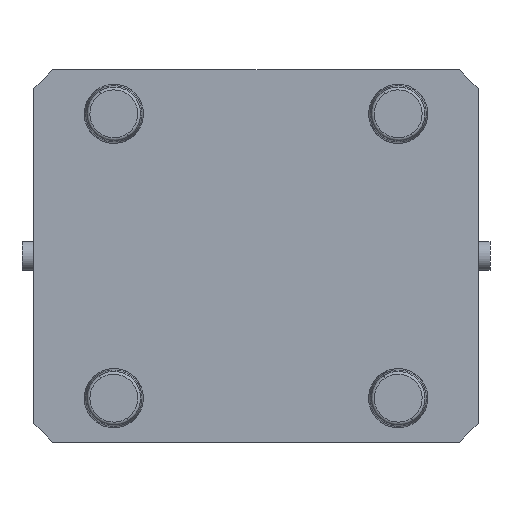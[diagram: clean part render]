
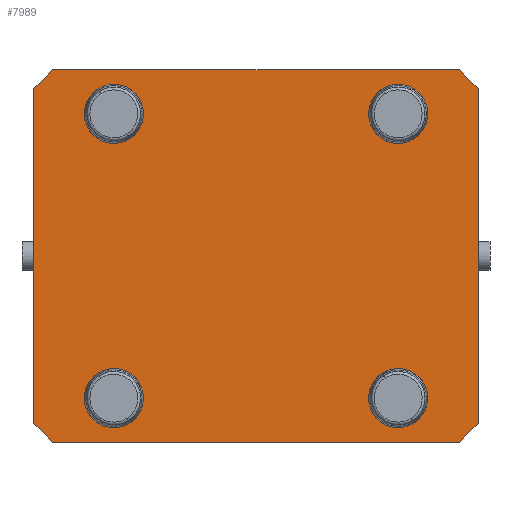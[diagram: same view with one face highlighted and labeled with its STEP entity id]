
A CAD part, front view. The second image highlights one B-rep face of the part: STEP entity #7989.
In plain terms, the highlighted planar face has unit normal (0, -1, 0).
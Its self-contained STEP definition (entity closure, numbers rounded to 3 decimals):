
#92 = CARTESIAN_POINT ( 'NONE',  ( 68.65, 0., -62.865 ) ) ;
#105 = CARTESIAN_POINT ( 'NONE',  ( -48., 0., -56.01 ) ) ;
#164 = CIRCLE ( 'NONE', #8011, 8.01 ) ;
#213 = ORIENTED_EDGE ( 'NONE', *, *, #9001, .T. ) ;
#287 = DIRECTION ( 'NONE',  ( 0.707, 0., -0.707 ) ) ;
#586 = DIRECTION ( 'NONE',  ( 0.707, 0., 0.707 ) ) ;
#594 = FACE_BOUND ( 'NONE', #6191, .T. ) ;
#634 = CARTESIAN_POINT ( 'NONE',  ( 48., 0., -48. ) ) ;
#657 = EDGE_LOOP ( 'NONE', ( #2764, #4344 ) ) ;
#660 = AXIS2_PLACEMENT_3D ( 'NONE', #8205, #2317, #7489 ) ;
#684 = EDGE_CURVE ( 'NONE', #7181, #5757, #1202, .T. ) ;
#794 = CARTESIAN_POINT ( 'NONE',  ( -48., 0., -48. ) ) ;
#817 = FACE_BOUND ( 'NONE', #8813, .T. ) ;
#830 = EDGE_LOOP ( 'NONE', ( #7213, #3778 ) ) ;
#959 = VERTEX_POINT ( 'NONE', #6348 ) ;
#1030 = ORIENTED_EDGE ( 'NONE', *, *, #5386, .T. ) ;
#1202 = LINE ( 'NONE', #92, #4952 ) ;
#1205 = VERTEX_POINT ( 'NONE', #6537 ) ;
#1284 = VERTEX_POINT ( 'NONE', #8278 ) ;
#1389 = DIRECTION ( 'NONE',  ( 0., 0., -1. ) ) ;
#1423 = VERTEX_POINT ( 'NONE', #8372 ) ;
#1448 = CARTESIAN_POINT ( 'NONE',  ( 48., 0., 56.01 ) ) ;
#1550 = VECTOR ( 'NONE', #6448, 1000. ) ;
#1593 = ORIENTED_EDGE ( 'NONE', *, *, #4910, .F. ) ;
#1723 = DIRECTION ( 'NONE',  ( 0., 0., 1. ) ) ;
#1746 = CARTESIAN_POINT ( 'NONE',  ( -48., 0., 48. ) ) ;
#1763 = DIRECTION ( 'NONE',  ( 0., 0., 1. ) ) ;
#1781 = CIRCLE ( 'NONE', #8804, 8.01 ) ;
#1802 = AXIS2_PLACEMENT_3D ( 'NONE', #6066, #2414, #1723 ) ;
#1828 = ORIENTED_EDGE ( 'NONE', *, *, #684, .T. ) ;
#1926 = VECTOR ( 'NONE', #287, 1000. ) ;
#1943 = LINE ( 'NONE', #7549, #7037 ) ;
#2030 = VERTEX_POINT ( 'NONE', #4772 ) ;
#2081 = EDGE_CURVE ( 'NONE', #1423, #2705, #2821, .T. ) ;
#2131 = VECTOR ( 'NONE', #5315, 1000. ) ;
#2151 = EDGE_CURVE ( 'NONE', #2030, #959, #6464, .T. ) ;
#2193 = ORIENTED_EDGE ( 'NONE', *, *, #5624, .F. ) ;
#2250 = DIRECTION ( 'NONE',  ( 0., -1., 0. ) ) ;
#2317 = DIRECTION ( 'NONE',  ( 0., -1., 0. ) ) ;
#2406 = ORIENTED_EDGE ( 'NONE', *, *, #2706, .T. ) ;
#2414 = DIRECTION ( 'NONE',  ( 0., -1., 0. ) ) ;
#2506 = LINE ( 'NONE', #3172, #1926 ) ;
#2597 = DIRECTION ( 'NONE',  ( 0., -1., 0. ) ) ;
#2603 = EDGE_CURVE ( 'NONE', #8369, #4503, #7758, .T. ) ;
#2705 = VERTEX_POINT ( 'NONE', #7394 ) ;
#2706 = EDGE_CURVE ( 'NONE', #4995, #1284, #9395, .T. ) ;
#2764 = ORIENTED_EDGE ( 'NONE', *, *, #2603, .F. ) ;
#2821 = CIRCLE ( 'NONE', #3763, 8.01 ) ;
#3068 = LINE ( 'NONE', #4583, #2131 ) ;
#3172 = CARTESIAN_POINT ( 'NONE',  ( -75., 0., -56.515 ) ) ;
#3182 = CIRCLE ( 'NONE', #5176, 8.01 ) ;
#3368 = CARTESIAN_POINT ( 'NONE',  ( 48., 0., -48. ) ) ;
#3384 = ORIENTED_EDGE ( 'NONE', *, *, #3506, .F. ) ;
#3447 = DIRECTION ( 'NONE',  ( 0., -1., 0. ) ) ;
#3506 = EDGE_CURVE ( 'NONE', #7181, #4713, #4783, .T. ) ;
#3763 = AXIS2_PLACEMENT_3D ( 'NONE', #1746, #2597, #9247 ) ;
#3778 = ORIENTED_EDGE ( 'NONE', *, *, #6434, .F. ) ;
#3812 = CARTESIAN_POINT ( 'NONE',  ( -48., 0., -39.99 ) ) ;
#4123 = DIRECTION ( 'NONE',  ( 0., 0., -1. ) ) ;
#4149 = CIRCLE ( 'NONE', #1802, 8.01 ) ;
#4172 = CARTESIAN_POINT ( 'NONE',  ( -48., 0., -48. ) ) ;
#4193 = VERTEX_POINT ( 'NONE', #4799 ) ;
#4344 = ORIENTED_EDGE ( 'NONE', *, *, #9305, .F. ) ;
#4359 = LINE ( 'NONE', #8404, #7849 ) ;
#4503 = VERTEX_POINT ( 'NONE', #3812 ) ;
#4521 = VERTEX_POINT ( 'NONE', #5256 ) ;
#4576 = CARTESIAN_POINT ( 'NONE',  ( 68.65, 0., -62.865 ) ) ;
#4583 = CARTESIAN_POINT ( 'NONE',  ( 75., 0., -62.865 ) ) ;
#4607 = CIRCLE ( 'NONE', #660, 8.01 ) ;
#4713 = VERTEX_POINT ( 'NONE', #5829 ) ;
#4716 = DIRECTION ( 'NONE',  ( 0., 0., 1. ) ) ;
#4772 = CARTESIAN_POINT ( 'NONE',  ( 48., 0., -39.99 ) ) ;
#4783 = LINE ( 'NONE', #7657, #5005 ) ;
#4799 = CARTESIAN_POINT ( 'NONE',  ( 48., 0., 39.99 ) ) ;
#4910 = EDGE_CURVE ( 'NONE', #1205, #1284, #4359, .T. ) ;
#4952 = VECTOR ( 'NONE', #586, 1000. ) ;
#4995 = VERTEX_POINT ( 'NONE', #5273 ) ;
#5005 = VECTOR ( 'NONE', #5430, 1000. ) ;
#5176 = AXIS2_PLACEMENT_3D ( 'NONE', #5790, #7918, #1389 ) ;
#5256 = CARTESIAN_POINT ( 'NONE',  ( 75., 0., 56.515 ) ) ;
#5273 = CARTESIAN_POINT ( 'NONE',  ( -68.65, 0., 62.865 ) ) ;
#5315 = DIRECTION ( 'NONE',  ( 0., 0., -1. ) ) ;
#5386 = EDGE_CURVE ( 'NONE', #4521, #9388, #6883, .T. ) ;
#5430 = DIRECTION ( 'NONE',  ( -1., 0., 0. ) ) ;
#5504 = DIRECTION ( 'NONE',  ( 0., 1., 0. ) ) ;
#5624 = EDGE_CURVE ( 'NONE', #4995, #9388, #1943, .T. ) ;
#5750 = ORIENTED_EDGE ( 'NONE', *, *, #2151, .F. ) ;
#5757 = VERTEX_POINT ( 'NONE', #8290 ) ;
#5790 = CARTESIAN_POINT ( 'NONE',  ( -48., 0., 48. ) ) ;
#5829 = CARTESIAN_POINT ( 'NONE',  ( -68.65, 0., -62.865 ) ) ;
#5850 = AXIS2_PLACEMENT_3D ( 'NONE', #7832, #5504, #1763 ) ;
#5921 = VERTEX_POINT ( 'NONE', #1448 ) ;
#6061 = ORIENTED_EDGE ( 'NONE', *, *, #8390, .F. ) ;
#6066 = CARTESIAN_POINT ( 'NONE',  ( 48., 0., 48. ) ) ;
#6081 = ORIENTED_EDGE ( 'NONE', *, *, #6186, .F. ) ;
#6186 = EDGE_CURVE ( 'NONE', #4521, #5757, #3068, .T. ) ;
#6191 = EDGE_LOOP ( 'NONE', ( #7385, #5750 ) ) ;
#6193 = DIRECTION ( 'NONE',  ( -0.707, 0., -0.707 ) ) ;
#6265 = FACE_OUTER_BOUND ( 'NONE', #6942, .T. ) ;
#6287 = ORIENTED_EDGE ( 'NONE', *, *, #8550, .F. ) ;
#6348 = CARTESIAN_POINT ( 'NONE',  ( 48., 0., -56.01 ) ) ;
#6434 = EDGE_CURVE ( 'NONE', #2705, #1423, #3182, .T. ) ;
#6448 = DIRECTION ( 'NONE',  ( -0.707, 0., 0.707 ) ) ;
#6464 = CIRCLE ( 'NONE', #6912, 8.01 ) ;
#6500 = FACE_BOUND ( 'NONE', #657, .T. ) ;
#6537 = CARTESIAN_POINT ( 'NONE',  ( -75., 0., -56.515 ) ) ;
#6694 = DIRECTION ( 'NONE',  ( 1., 0., 0. ) ) ;
#6841 = EDGE_CURVE ( 'NONE', #959, #2030, #1781, .T. ) ;
#6883 = LINE ( 'NONE', #9302, #1550 ) ;
#6912 = AXIS2_PLACEMENT_3D ( 'NONE', #3368, #8556, #4123 ) ;
#6942 = EDGE_LOOP ( 'NONE', ( #3384, #1828, #6081, #1030, #2193, #2406, #1593, #213 ) ) ;
#7037 = VECTOR ( 'NONE', #6694, 1000. ) ;
#7169 = DIRECTION ( 'NONE',  ( 0., 0., -1. ) ) ;
#7181 = VERTEX_POINT ( 'NONE', #4576 ) ;
#7213 = ORIENTED_EDGE ( 'NONE', *, *, #2081, .F. ) ;
#7270 = CARTESIAN_POINT ( 'NONE',  ( -68.65, 0., 62.865 ) ) ;
#7385 = ORIENTED_EDGE ( 'NONE', *, *, #6841, .F. ) ;
#7394 = CARTESIAN_POINT ( 'NONE',  ( -48., 0., 56.01 ) ) ;
#7404 = VECTOR ( 'NONE', #6193, 1000. ) ;
#7489 = DIRECTION ( 'NONE',  ( 0., 0., 1. ) ) ;
#7527 = DIRECTION ( 'NONE',  ( 0., 0., 1. ) ) ;
#7549 = CARTESIAN_POINT ( 'NONE',  ( -75., 0., 62.865 ) ) ;
#7657 = CARTESIAN_POINT ( 'NONE',  ( -75., 0., -62.865 ) ) ;
#7677 = AXIS2_PLACEMENT_3D ( 'NONE', #4172, #3447, #7816 ) ;
#7758 = CIRCLE ( 'NONE', #7677, 8.01 ) ;
#7816 = DIRECTION ( 'NONE',  ( 0., 0., 1. ) ) ;
#7832 = CARTESIAN_POINT ( 'NONE',  ( 0., 0., 0. ) ) ;
#7849 = VECTOR ( 'NONE', #4716, 1000. ) ;
#7918 = DIRECTION ( 'NONE',  ( 0., -1., 0. ) ) ;
#7989 = ADVANCED_FACE ( 'NONE', ( #817, #6500, #594, #8271, #6265 ), #9268, .F. ) ;
#8011 = AXIS2_PLACEMENT_3D ( 'NONE', #794, #2250, #7527 ) ;
#8205 = CARTESIAN_POINT ( 'NONE',  ( 48., 0., 48. ) ) ;
#8271 = FACE_BOUND ( 'NONE', #830, .T. ) ;
#8278 = CARTESIAN_POINT ( 'NONE',  ( -75., 0., 56.515 ) ) ;
#8290 = CARTESIAN_POINT ( 'NONE',  ( 75., 0., -56.515 ) ) ;
#8369 = VERTEX_POINT ( 'NONE', #105 ) ;
#8372 = CARTESIAN_POINT ( 'NONE',  ( -48., 0., 39.99 ) ) ;
#8390 = EDGE_CURVE ( 'NONE', #5921, #4193, #4607, .T. ) ;
#8404 = CARTESIAN_POINT ( 'NONE',  ( -75., 0., -62.865 ) ) ;
#8550 = EDGE_CURVE ( 'NONE', #4193, #5921, #4149, .T. ) ;
#8556 = DIRECTION ( 'NONE',  ( 0., -1., 0. ) ) ;
#8804 = AXIS2_PLACEMENT_3D ( 'NONE', #634, #9501, #7169 ) ;
#8813 = EDGE_LOOP ( 'NONE', ( #6287, #6061 ) ) ;
#9001 = EDGE_CURVE ( 'NONE', #1205, #4713, #2506, .T. ) ;
#9247 = DIRECTION ( 'NONE',  ( 0., 0., -1. ) ) ;
#9268 = PLANE ( 'NONE',  #5850 ) ;
#9302 = CARTESIAN_POINT ( 'NONE',  ( 75., 0., 56.515 ) ) ;
#9305 = EDGE_CURVE ( 'NONE', #4503, #8369, #164, .T. ) ;
#9388 = VERTEX_POINT ( 'NONE', #9491 ) ;
#9395 = LINE ( 'NONE', #7270, #7404 ) ;
#9491 = CARTESIAN_POINT ( 'NONE',  ( 68.65, 0., 62.865 ) ) ;
#9501 = DIRECTION ( 'NONE',  ( 0., -1., 0. ) ) ;
